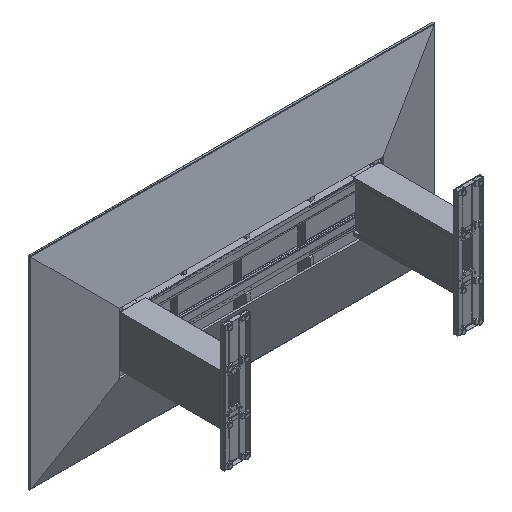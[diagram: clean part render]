
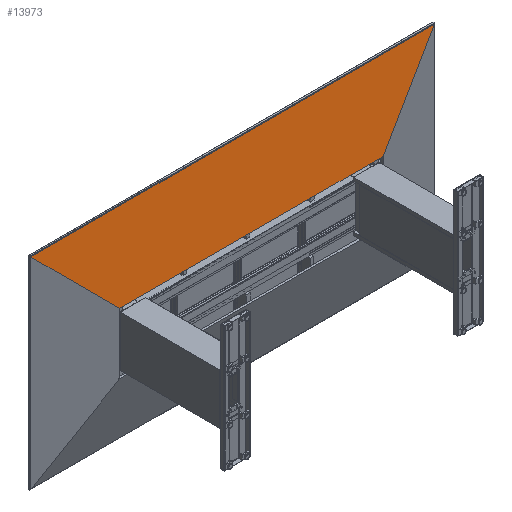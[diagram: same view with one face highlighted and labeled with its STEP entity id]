
A CAD part, isometric view. The second image highlights one B-rep face of the part: STEP entity #13973.
In plain terms, the highlighted planar face has unit normal (0, -0.966, 0.259) as drawn and (0, -1, 0) by its records, which use the part's own axes.
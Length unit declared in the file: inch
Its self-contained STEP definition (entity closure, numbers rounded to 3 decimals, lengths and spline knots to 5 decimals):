
#3720=FACE_OUTER_BOUND('',#4498,.T.);
#4498=EDGE_LOOP('',(#11922,#11923,#11924,#11925));
#5636=LINE('',#23296,#6831);
#5637=LINE('',#23299,#6832);
#5638=LINE('',#23301,#6833);
#5639=LINE('',#23302,#6834);
#6831=VECTOR('',#18710,0.3937);
#6832=VECTOR('',#18713,0.3937);
#6833=VECTOR('',#18714,0.3937);
#6834=VECTOR('',#18715,0.3937);
#7901=VERTEX_POINT('',#23288);
#7904=VERTEX_POINT('',#23294);
#7905=VERTEX_POINT('',#23298);
#7906=VERTEX_POINT('',#23300);
#9304=EDGE_CURVE('',#7901,#7904,#5636,.T.);
#9305=EDGE_CURVE('',#7905,#7901,#5637,.T.);
#9306=EDGE_CURVE('',#7906,#7904,#5638,.T.);
#9307=EDGE_CURVE('',#7906,#7905,#5639,.T.);
#11922=ORIENTED_EDGE('',*,*,#9305,.T.);
#11923=ORIENTED_EDGE('',*,*,#9304,.T.);
#11924=ORIENTED_EDGE('',*,*,#9306,.F.);
#11925=ORIENTED_EDGE('',*,*,#9307,.T.);
#13438=PLANE('',#15852);
#13973=ADVANCED_FACE('',(#3720),#13438,.F.);
#15852=AXIS2_PLACEMENT_3D('',#23297,#18711,#18712);
#18710=DIRECTION('',(0.695,0.,-0.719));
#18711=DIRECTION('center_axis',(0.,1.,0.));
#18712=DIRECTION('ref_axis',(0.,0.,1.));
#18713=DIRECTION('',(-1.,0.,0.));
#18714=DIRECTION('',(-1.,0.,0.));
#18715=DIRECTION('',(0.695,0.,0.719));
#23288=CARTESIAN_POINT('',(-23.875,0.,-0.03235));
#23294=CARTESIAN_POINT('',(-7.24403,0.,-17.25));
#23296=CARTESIAN_POINT('',(-1.65584,0.,-23.03532));
#23297=CARTESIAN_POINT('Origin',(35.9375,0.,-8.625));
#23298=CARTESIAN_POINT('',(71.875,0.,-0.03235));
#23299=CARTESIAN_POINT('',(6.03125,0.,-0.03235));
#23300=CARTESIAN_POINT('',(55.24403,0.,-17.25));
#23301=CARTESIAN_POINT('',(71.875,0.,-17.25));
#23302=CARTESIAN_POINT('',(55.41775,0.,-17.07015));
